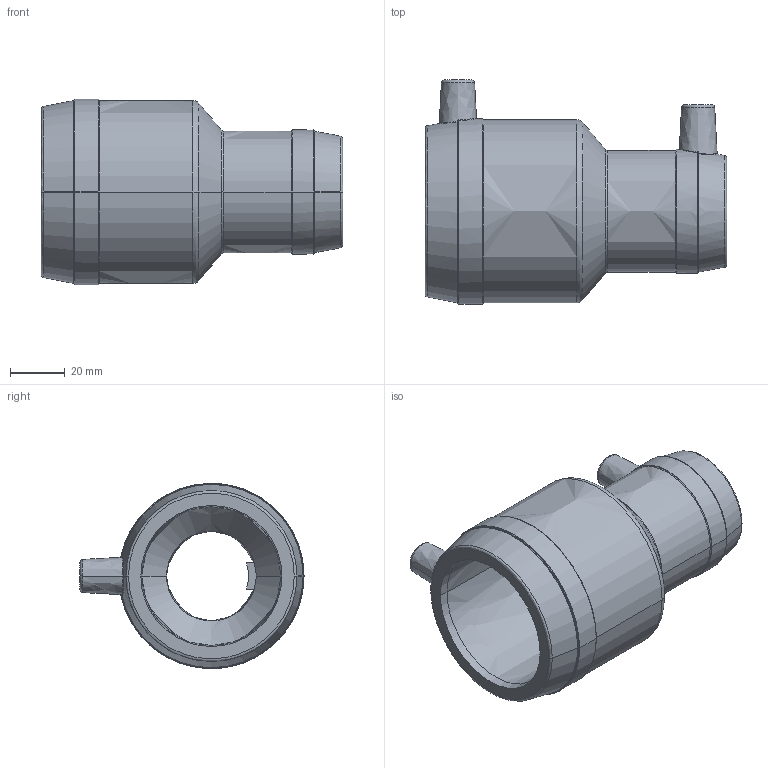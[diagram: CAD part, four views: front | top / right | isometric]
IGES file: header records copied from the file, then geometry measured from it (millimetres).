
Start section:  PTC IGES file: mr_d050-032_01.igs
Global section: file name: mr_d050-032_01.igs; native system: Pro/ENGINEER by Parametric Technology Corporation; preprocessor: 2011490; author: mtunjic; organization: Unknown; date: 20130816.153058; units: millimetre
Bounding box: 110 x 81.62 x 67.5 mm (x, y, z)
Surface area: 38433.3 mm2 (no closed solid volume)
Topology: 0 solids, 0 shells, 200 faces, 982 edges, 982 vertices
Faces by surface type: bspline 200
